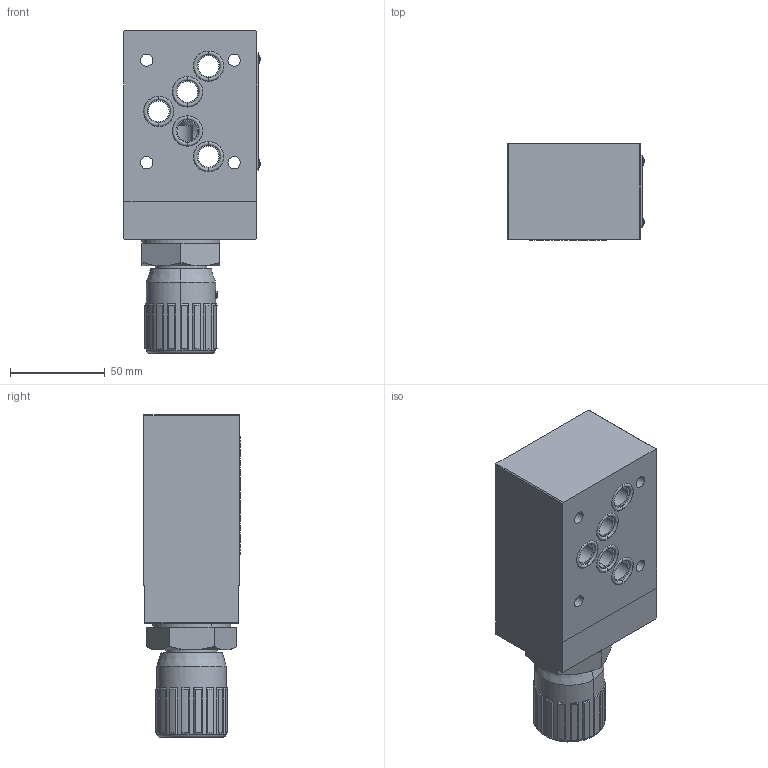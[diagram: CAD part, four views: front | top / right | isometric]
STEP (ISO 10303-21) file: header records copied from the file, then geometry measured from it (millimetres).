
FILE_DESCRIPTION (( 'STEP AP214' ), '1' );
FILE_NAME ('357-5-B-05-H.STEP', '2020-06-01T11:59:44', ( '' ), ( '' ), 'SwSTEP 2.0', 'SolidWorks 2018', '' );
FILE_SCHEMA (( 'AUTOMOTIVE_DESIGN' ));
Length unit declared in the file: millimetre
Products named in the file (22): DISCO FASCETTA 257-1.004.00.1-12; VITE DI REGOLAZIONE 267-5.017.00.0-12; OR 3081; SPILLO DI REGOLAZIONE 267-5.002.00.1-12; CORPO CARTUCCIA 357-5-AB.101.00.0-05; RIVETTO D=2 x L=4.6 TAPDM1BS LD FASTENERS; TARGHETTA 357-5-B.015.00-05-H; OR2050; OR4112; GRANO DI BLOCCAGGIO M5X8_Tipo18; CORPO VALVOLA 357-5-B.001.00-H; 357-5-B-05-H; CAPPUCCIO VOLANTINO 257-5.007.00.1-12_Tipo12; MOLLA 2257-6.009.00.0-12_COMPRESSA; VOLANTINO DI MANOVRA 257-2.005.00.0-12_Tipo12; ANELLO DI FERMO 1251-2.003.00.1-34; VALVOLA TENUTA METALLICA 267-5.008.00.1-12; BK 106; BUSSOLA DI TENUTA 267-5.018.00.0-12; OR 106; 267-5-12 NO CORPO CARTUCCIA; VITE TESTA BOMBATA 257-1.006.00.1-12
Assembly tree (28 placements, depth 3):
  357-5-B-05-H
    OR2050  x5
    OR4112
    CORPO CARTUCCIA 357-5-AB.101.00.0-05
    RIVETTO D=2 x L=4.6 TAPDM1BS LD FASTENERS  x4
    267-5-12 NO CORPO CARTUCCIA
      BUSSOLA DI TENUTA 267-5.018.00.0-12
      OR 106
      OR 3081
      SPILLO DI REGOLAZIONE 267-5.002.00.1-12
      VALVOLA TENUTA METALLICA 267-5.008.00.1-12
      VITE DI REGOLAZIONE 267-5.017.00.0-12
      BK 106
      DISCO FASCETTA 257-1.004.00.1-12
      VITE TESTA BOMBATA 257-1.006.00.1-12
      VOLANTINO DI MANOVRA 257-2.005.00.0-12_Tipo12
      CAPPUCCIO VOLANTINO 257-5.007.00.1-12_Tipo12
      ANELLO DI FERMO 1251-2.003.00.1-34
      GRANO DI BLOCCAGGIO M5X8_Tipo18
      MOLLA 2257-6.009.00.0-12_COMPRESSA
    CORPO VALVOLA 357-5-B.001.00-H
    TARGHETTA 357-5-B.015.00-05-H
Bounding box: 71.66 x 50.58 x 169.8 mm (x, y, z)
Volume: 405035.9 mm3; surface area: 98795.3 mm2
Topology: 27 solids, 27 shells, 2232 faces, 5723 edges, 3724 vertices
Faces by surface type: plane 1235, cylinder 363, bspline 355, cone 221, torus 50, sphere 8
Entity records: 108628 total; most frequent: CARTESIAN_POINT 41211, ORIENTED_EDGE 11138, DIRECTION 9070, EDGE_CURVE 5569, VECTOR 3666, LINE 3666, VERTEX_POINT 3642, AXIS2_PLACEMENT_3D 2702
